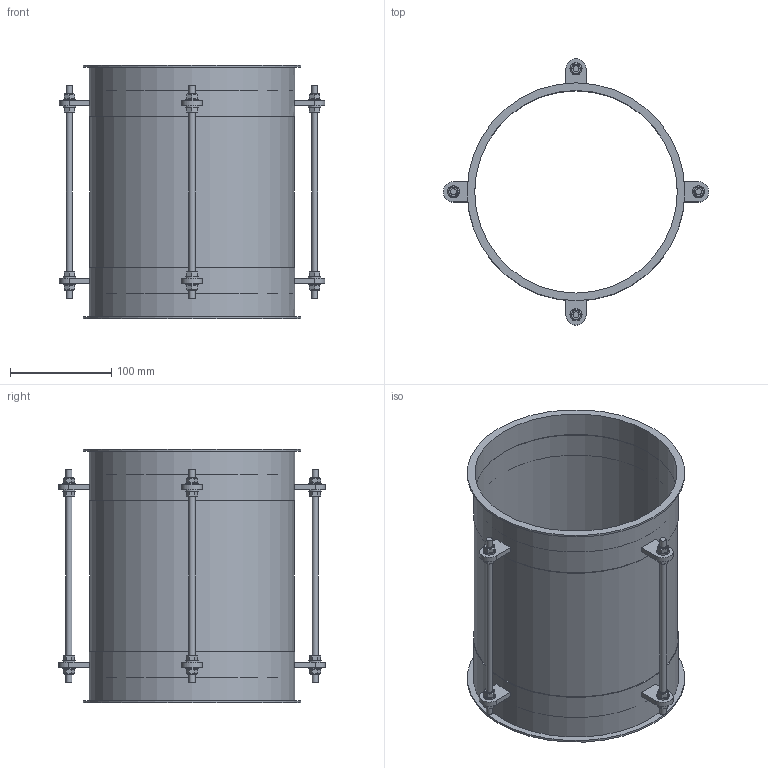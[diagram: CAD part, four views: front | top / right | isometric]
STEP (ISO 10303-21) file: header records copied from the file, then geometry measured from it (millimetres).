
FILE_DESCRIPTION((''),'2;1');
FILE_NAME('U:\Wolfgang\Marcel-3D\fertig\Kapitel 4\2011042.stp','2011-04-21T08:27:25',('TK1'),(''),'Autodesk Inventor 2010','Autodesk Inventor 2010','');
FILE_SCHEMA(('AUTOMOTIVE_DESIGN { 1 0 10303 214 1 1 1 1 }'));
Length unit declared in the file: millimetre
Products named in the file (6): 2011042; 2011042-1; 2011042-2; 2011042-3; ISO 4032 M6; ISO 7089 6 - 140 HV
Assembly tree (39 placements, depth 2):
  2011042
    2011042-1  x2
    2011042-2
    2011042-3  x4
    ISO 4032 M6  x16
    ISO 7089 6 - 140 HV  x16
Bounding box: 262.01 x 263 x 250 mm (x, y, z)
Volume: 233886 mm3; surface area: 438134.2 mm2
Topology: 45 solids, 45 shells, 362 faces, 758 edges, 490 vertices
Faces by surface type: plane 218, cylinder 64, cone 64, bspline 16
Full cylindrical faces by diameter (mm): 6 x12, 6.4 x16, 12 x16, 200 x3, 201.5 x3, 203 x2, 215 x2
Entity records: 1989 total; most frequent: DIRECTION 346, CARTESIAN_POINT 332, ORIENTED_EDGE 212, AXIS2_PLACEMENT_3D 148, EDGE_CURVE 106, EDGE_LOOP 100, VERTEX_POINT 80, FACE_OUTER_BOUND 60
